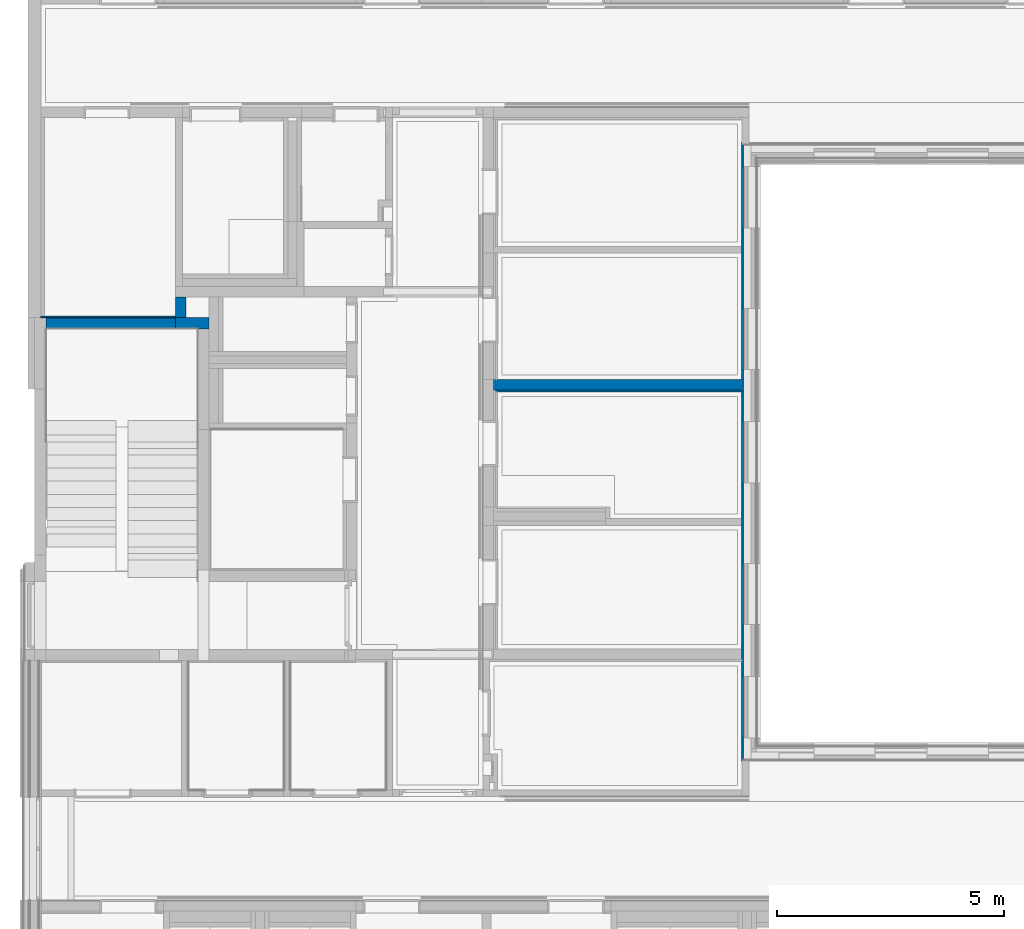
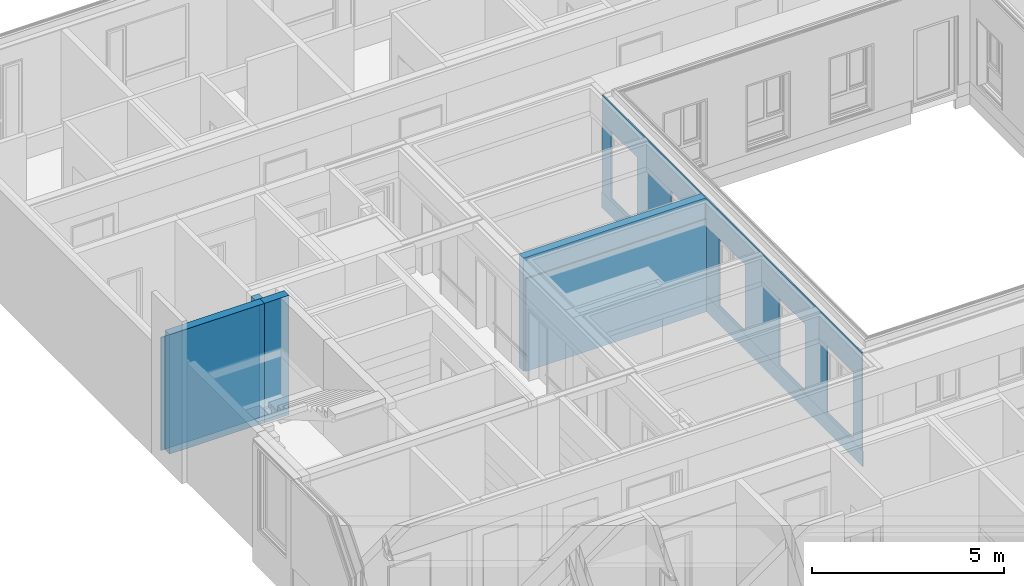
# One storey, part 15 of 207: 9 walls, 5 openings.
"""IFC4 building model written with IfcOpenShell, lengths in metres."""

from ifc_helpers import new_model, entity, si_unit, converted_unit, derived_unit, frame, frame_2d, origin, origin_with_axes, place, context, subcontext, project, spatial, polyline, rectangle, outline, extrude, material, element, save


model = new_model("IFC4")

# Units and contexts
model_context = context("Model", 3, precision=1e-05, world=origin())
body_context = subcontext(model_context, "Body", "Model", "MODEL_VIEW")
ifc_project = project(units=[si_unit("LENGTHUNIT", "METRE"), si_unit("AREAUNIT", "SQUARE_METRE"), si_unit("VOLUMEUNIT", "CUBIC_METRE"), si_unit("MASSUNIT", "GRAM", prefix="KILO"), converted_unit("PLANEANGLEUNIT", "DEGREE", entity("IfcPlaneAngleMeasure", 0.0174532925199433), si_unit("PLANEANGLEUNIT", "RADIAN"), dimensions=[0, 0, 0, 0, 0, 0, 0]), derived_unit("THERMALTRANSMITTANCEUNIT", [(si_unit("POWERUNIT", "WATT"), 1), (si_unit("THERMODYNAMICTEMPERATUREUNIT", "KELVIN"), -1), (si_unit("LENGTHUNIT", "METRE"), -2)]), derived_unit("VOLUMETRICFLOWRATEUNIT", [(si_unit("LENGTHUNIT", "METRE"), 3), (converted_unit("TIMEUNIT", "hour", entity("IfcTimeMeasure", 3600.0), si_unit("TIMEUNIT", "SECOND"), dimensions=[0, 0, 1, 0, 0, 0, 0]), -1), (si_unit("LENGTHUNIT", "METRE"), -1)])], contexts=[model_context])

# Site, building, storey
site_placement = place(None, origin())
site = spatial("IfcSite", under=ifc_project, at=site_placement, Name="Psychiatrie Neubau Wunstorf", CompositionType="ELEMENT")
building_placement = place(site_placement, origin())
building = spatial("IfcBuilding", under=site, at=building_placement, Name="Neubau H2 Stationsgebäude", CompositionType="ELEMENT")
storey_placement = place(building_placement, frame((0.0, 0.0, -0.2)))
storey = spatial("IfcBuildingStorey", under=building, at=storey_placement, Name="H2 Ebene 0", CompositionType="ELEMENT", Elevation=-0.2)

# Wall, openings
ifc_material_1 = material(Name="WA-LB")
wall_1_placement = place(storey_placement, frame((15.639, 21.0, 0.5), z_axis=(0.0, 0.0, 1.0), x_axis=(-1.34242760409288e-16, -1.0, 0.0)))
wall_1 = element("IfcWall", 1, at=wall_1_placement, inside=storey, material=ifc_material_1, context=body_context, shape_type="SweptSolid", body=[
    extrude(rectangle(XDim=13.55, YDim=0.036, at=frame_2d((6.775, 0.018), x_axis=(1.0, 0.0))), origin_with_axes(), (0.0, 0.0, 1.0), 3.1),
])
opening_1_placement = place(wall_1_placement, frame((13.075, 0.0359999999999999, 0.1), z_axis=(0.0, -1.0, 0.0), x_axis=(0.0, 0.0, 1.0)))
element("IfcOpeningElement", 2, at=opening_1_placement, cuts=wall_1, Name="Fensteröffnung", ObjectType="Opening", context=body_context, shape_type="SweptSolid", body=[
    extrude(outline(polyline([(2.12, 1.35), (2.12, 0.0), (0.0, 0.0), (0.0, 1.35), (2.12, 1.35)])), origin_with_axes(), (0.0, 0.0, 1.0), 0.036),
])
opening_2_placement = place(wall_1_placement, frame((10.575, 0.0359999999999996, 0.1), z_axis=(0.0, -1.0, 0.0), x_axis=(0.0, 0.0, 1.0)))
element("IfcOpeningElement", 3, at=opening_2_placement, cuts=wall_1, Name="Fensteröffnung", ObjectType="Opening", context=body_context, shape_type="SweptSolid", body=[
    extrude(outline(polyline([(2.12, 1.35), (2.12, 0.0), (0.0, 0.0), (0.0, 1.35), (2.12, 1.35)])), origin_with_axes(), (0.0, 0.0, 1.0), 0.036),
])
opening_3_placement = place(wall_1_placement, frame((1.82500000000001, 0.0360000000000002, 0.1), z_axis=(0.0, -1.0, 0.0), x_axis=(0.0, 0.0, 1.0)))
element("IfcOpeningElement", 4, at=opening_3_placement, cuts=wall_1, Name="Fensteröffnung", ObjectType="Opening", context=body_context, shape_type="SweptSolid", body=[
    extrude(outline(polyline([(2.12, 1.35), (2.12, 0.0), (0.0, 0.0), (0.0, 1.35), (2.12, 1.35)])), origin_with_axes(), (0.0, 0.0, 1.0), 0.036),
])
opening_4_placement = place(wall_1_placement, frame((4.95, 0.0360000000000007, 0.1), z_axis=(0.0, -1.0, 0.0), x_axis=(0.0, 0.0, 1.0)))
element("IfcOpeningElement", 5, at=opening_4_placement, cuts=wall_1, Name="Fensteröffnung", ObjectType="Opening", context=body_context, shape_type="SweptSolid", body=[
    extrude(outline(polyline([(2.12, 1.35), (2.12, 0.0), (0.0, 0.0), (0.0, 1.35), (2.12, 1.35)])), origin_with_axes(), (0.0, 0.0, 1.0), 0.036),
])
opening_5_placement = place(wall_1_placement, frame((7.45, 0.0359999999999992, 0.1), z_axis=(0.0, -1.0, 0.0), x_axis=(0.0, 0.0, 1.0)))
element("IfcOpeningElement", 6, at=opening_5_placement, cuts=wall_1, Name="Fensteröffnung", ObjectType="Opening", context=body_context, shape_type="SweptSolid", body=[
    extrude(outline(polyline([(2.12, 1.35), (2.12, 0.0), (0.0, 0.0), (0.0, 1.35), (2.12, 1.35)])), origin_with_axes(), (0.0, 0.0, 1.0), 0.036),
])

# Walls
ifc_material_2 = material(Name="WA-LB")
wall_2_placement = place(storey_placement, frame((15.639, 21.036, 0.0), z_axis=(0.0, 0.0, 1.0), x_axis=(-2.67066422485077e-16, -1.0, 0.0)))
element("IfcWall", 7, at=wall_2_placement, inside=storey, material=ifc_material_2, context=body_context, shape_type="SweptSolid", body=[
    extrude(rectangle(XDim=13.622, YDim=0.021, at=frame_2d((6.811, 0.0105), x_axis=(1.0, 0.0))), origin_with_axes(), (0.0, 0.0, 1.0), 0.5),
])
ifc_material_3 = material(Name="WI-IW")
wall_3_placement = place(storey_placement, frame((0.28, 17.2249998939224, 0.0), z_axis=(0.0, 0.0, 1.0), x_axis=(-0.999999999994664, -3.26684466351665e-06, 0.0)))
element("IfcWall", 8, at=wall_3_placement, inside=storey, material=ifc_material_3, context=body_context, shape_type="SweptSolid", body=[
    extrude(outline(polyline([(-0.111000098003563, -0.0299992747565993), (-0.0750000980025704, -0.0299990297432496), (-9.80029706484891e-08, -0.0299992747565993), (0.0, 0.0), (-0.110999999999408, 3.62619757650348e-07), (-0.111000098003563, -0.0299992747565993)])), frame((0.111000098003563, 0.0299992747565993, 0.0), z_axis=(0.0, 0.0, 1.0), x_axis=(1.0, 0.0, 0.0)), (0.0, 0.0, 1.0), 3.6),
])
ifc_material_4 = material(Name="WI-HW 60")
wall_4_placement = place(storey_placement, frame((3.139, 17.6540132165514, 0.0), z_axis=(0.0, 0.0, 1.0), x_axis=(0.0, -1.0, 0.0)))
element("IfcWall", 9, at=wall_4_placement, inside=storey, material=ifc_material_4, context=body_context, shape_type="SweptSolid", body=[
    extrude(rectangle(XDim=0.459013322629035, YDim=0.232, at=frame_2d((0.229506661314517, 0.116), x_axis=(1.0, 0.0))), origin_with_axes(), (0.0, 0.0, 1.0), 3.6),
])
ifc_material_5 = material(Name="WI-HW 60")
wall_5_placement = place(storey_placement, frame((15.639, 15.8255, 0.0), z_axis=(0.0, 0.0, 1.0), x_axis=(-1.0, 0.0, 0.0)))
element("IfcWall", 10, at=wall_5_placement, inside=storey, material=ifc_material_5, context=body_context, shape_type="SweptSolid", body=[
    extrude(rectangle(XDim=5.48949997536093, YDim=0.232, at=frame_2d((2.74474998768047, 0.116), x_axis=(1.0, 0.0))), origin_with_axes(), (0.0, 0.0, 1.0), 3.6),
])
ifc_material_6 = material(Name="WI-LB")
wall_6_placement = place(storey_placement, frame((15.639, 15.5935, 0.0), z_axis=(0.0, 0.0, 1.0), x_axis=(-1.0, 0.0, 0.0)))
element("IfcWall", 11, at=wall_6_placement, inside=storey, material=ifc_material_6, context=body_context, shape_type="SweptSolid", body=[
    extrude(rectangle(XDim=5.43949997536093, YDim=0.0395, at=frame_2d((2.71974998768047, 0.01975), x_axis=(1.0, 0.0))), origin_with_axes(), (0.0, 0.0, 1.0), 2.95),
])
ifc_material_7 = material(Name="WI-STB")
wall_7_placement = place(storey_placement, frame((3.88, 17.1949998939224, 0.0), z_axis=(0.0, 0.0, 1.0), x_axis=(-1.0, 0.0, 0.0)))
element("IfcWall", 12, at=wall_7_placement, inside=storey, material=ifc_material_7, context=body_context, shape_type="SweptSolid", body=[
    extrude(rectangle(XDim=0.741, YDim=0.25, at=frame_2d((0.3705, 0.125), x_axis=(1.0, 0.0))), origin_with_axes(), (0.0, 0.0, 1.0), 3.8),
])
ifc_material_8 = material(Name="WI-LB")
wall_8_placement = place(storey_placement, frame((3.139, 17.2249995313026, 0.0), z_axis=(0.0, 0.0, 1.0), x_axis=(-1.0, 0.0, 0.0)))
element("IfcWall", 13, at=wall_8_placement, inside=storey, material=ifc_material_8, context=body_context, shape_type="SweptSolid", body=[
    extrude(rectangle(XDim=2.859, YDim=0.0299996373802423, at=frame_2d((1.4295, 0.0149998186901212), x_axis=(1.0, 0.0))), origin_with_axes(), (0.0, 0.0, 1.0), 3.6),
])
ifc_material_9 = material(Name="WI-STB")
wall_9_placement = place(storey_placement, frame((3.139, 17.1949998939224, 0.0), z_axis=(0.0, 0.0, 1.0), x_axis=(-1.0, 0.0, 0.0)))
element("IfcWall", 14, at=wall_9_placement, inside=storey, material=ifc_material_9, context=body_context, shape_type="SweptSolid", body=[
    extrude(rectangle(XDim=2.859, YDim=0.25, at=frame_2d((1.4295, 0.125), x_axis=(1.0, 0.0))), origin_with_axes(), (0.0, 0.0, 1.0), 3.8),
])

save(model, "model.ifc")
